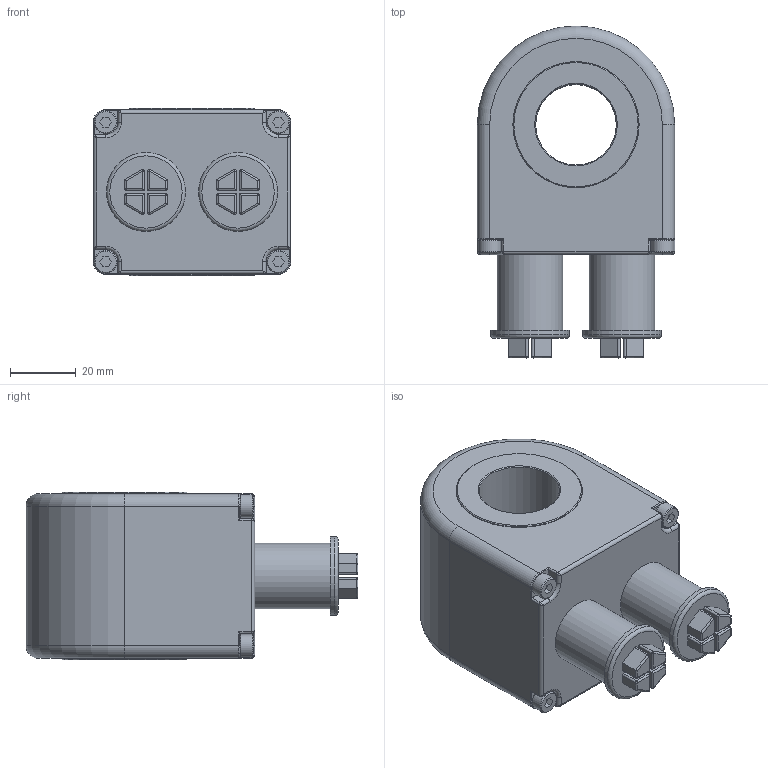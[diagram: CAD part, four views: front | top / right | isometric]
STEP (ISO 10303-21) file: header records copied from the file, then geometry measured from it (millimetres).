
FILE_DESCRIPTION(/* description */ (''),/* implementation_level */ '2;1');
FILE_NAME(/* name */ 'ALC 240 T - WCP.step',/* time_stamp */ '2023-07-06T16:47:01+02:00',/* author */ (''),/* organization */ (''),/* preprocessor_version */ 'ST-DEVELOPER v20',/* originating_system */ 'Autodesk Translation Framework v12.9.0.99',/* authorisation */ '');
FILE_SCHEMA (('AUTOMOTIVE_DESIGN { 1 0 10303 214 3 1 1 }'));
Length unit declared in the file: millimetre
Products named in the file (3): ALC 240 T - no WCP; WCP; WCP (1)
Assembly tree (2 placements, depth 2):
  ALC 240 T - no WCP
    WCP
    WCP (1)
Bounding box: 60 x 100.9 x 51 mm (x, y, z)
Volume: 178793.7 mm3; surface area: 37475.4 mm2
Topology: 3 solids, 15 shells, 485 faces, 1097 edges, 646 vertices
Faces by surface type: plane 193, cylinder 190, cone 38, torus 28, bspline 20, sphere 16
Full cylindrical faces by diameter (mm): 2.5 x2, 3 x4, 4 x4, 4.2 x4, 4.3 x4, 6.1 x4, 6.9 x2, 7 x4, 7.9 x2, 10.8 x2, 11 x2, 11.4 x2, 11.8 x2, 14 x2, 14.137 x6, 14.526 x2, 15.85 x4, 16 x2, 20 x2, 24 x2, 24.5 x1, 38.4 x2
Entity records: 16973 total; most frequent: CARTESIAN_POINT 6031, DIRECTION 2385, ORIENTED_EDGE 2130, EDGE_CURVE 1065, AXIS2_PLACEMENT_3D 918, VERTEX_POINT 646, LINE 549, VECTOR 549
